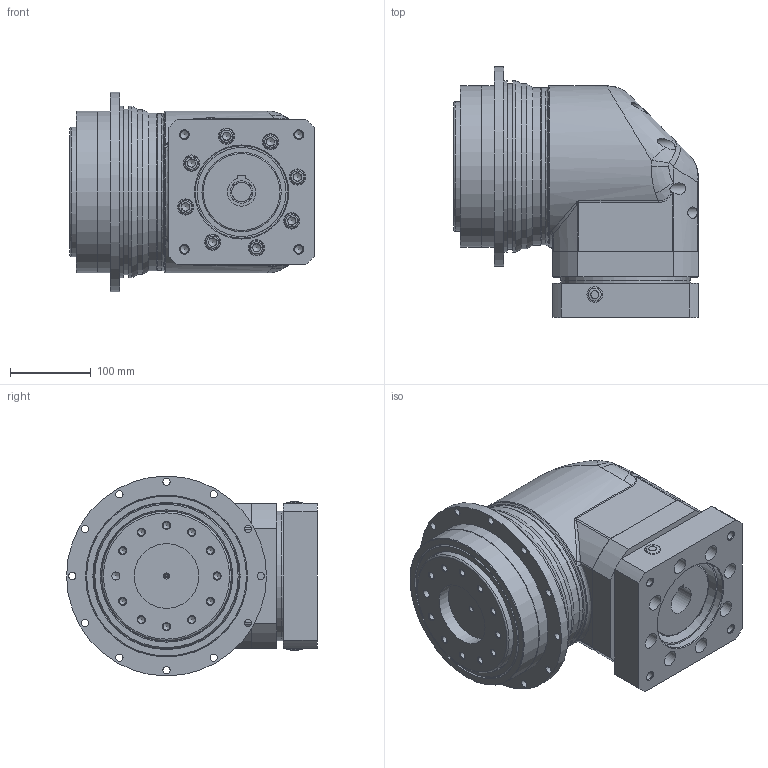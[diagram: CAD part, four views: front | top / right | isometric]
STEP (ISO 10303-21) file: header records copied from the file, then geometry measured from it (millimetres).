
FILE_DESCRIPTION (( 'STEP AP203' ), '1' );
FILE_NAME ('ADR200-L1-35-114.3-200-M12(入力带键槽).STEP', '2024-05-04T02:51:01', ( '' ), ( '' ), 'SwSTEP 2.0', 'SolidWorks 2018', '' );
FILE_SCHEMA (( 'CONFIG_CONTROL_DESIGN' ));
Length unit declared in the file: millimetre
Products named in the file (1): ADR200-L1-35-114.3-200-M12(入力带键槽)
Bounding box: 302.5 x 310 x 247 mm (x, y, z)
Volume: 9123971.6 mm3; surface area: 803886.3 mm2
Topology: 17 solids, 17 shells, 450 faces, 1064 edges, 680 vertices
Faces by surface type: plane 192, cylinder 145, cone 63, bspline 33, torus 17
Full cylindrical faces by diameter (mm): 4 x1, 6.8 x8, 8.5 x11, 9 x21, 10 x1, 10.2 x4, 13 x8, 14 x9, 16 x2, 18 x8, 19.4 x2, 20 x8, 24 x1, 28 x1, 80 x1, 90 x1, 98 x1, 110 x1, 114.3 x1, 115 x1, 125 x2, 130 x1, 135 x2, 135.83 x1, 140 x1, 149 x1, 160 x4, 165.714 x1, 180 x2, 194 x1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
Entity records: 22893 total; most frequent: CARTESIAN_POINT 13847, DIRECTION 1724, ORIENTED_EDGE 1614, EDGE_CURVE 807, EDGE_LOOP 752, AXIS2_PLACEMENT_3D 727, VERTEX_POINT 621, FACE_OUTER_BOUND 583
